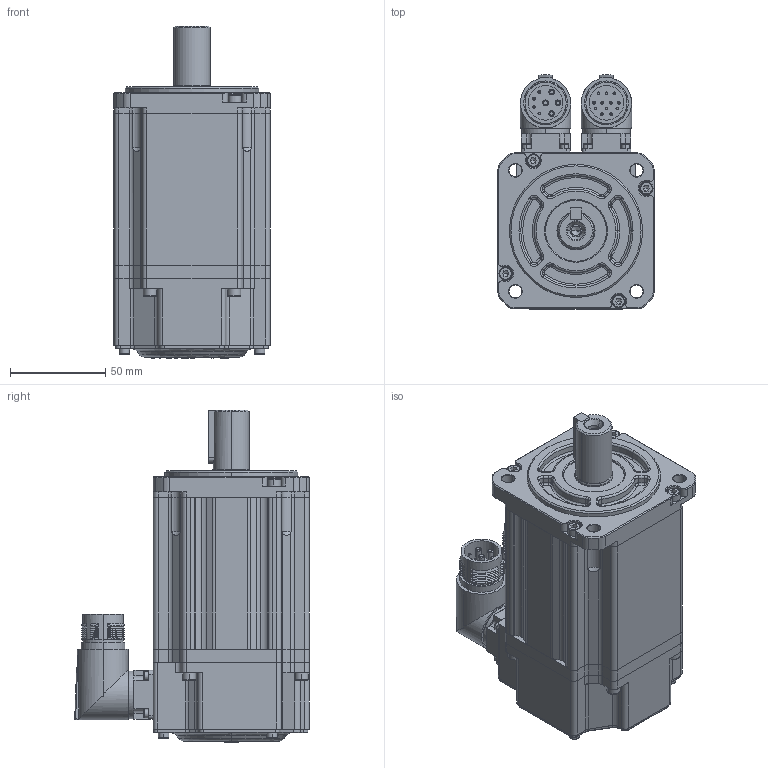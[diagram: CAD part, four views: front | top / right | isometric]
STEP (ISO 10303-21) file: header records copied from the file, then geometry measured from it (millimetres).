
FILE_DESCRIPTION (( 'STEP AP203' ), '1' );
FILE_NAME ('MC20-080-3L30-N102-0¡õPK-NNNN.STEP', '2025-05-04T11:47:16', ( '' ), ( '' ), 'SwSTEP 2.0', 'SolidWorks 2014', '' );
FILE_SCHEMA (( 'CONFIG_CONTROL_DESIGN' ));
Products named in the file (1): MC20-080-3L30-N102-0¡õPK-NNNN
Bounding box: 82 x 123.35 x 174.5 mm (x, y, z)
Volume: 937739.5 mm3; surface area: 147301.8 mm2
Topology: 28 solids, 28 shells, 1869 faces, 4422 edges, 2675 vertices
Faces by surface type: plane 754, cylinder 543, cone 316, torus 174, bspline 82
Entity records: 56181 total; most frequent: CARTESIAN_POINT 13056, DIRECTION 9351, ORIENTED_EDGE 8696, EDGE_CURVE 4348, AXIS2_PLACEMENT_3D 3609, VERTEX_POINT 2675, VECTOR 2133, LINE 2133
